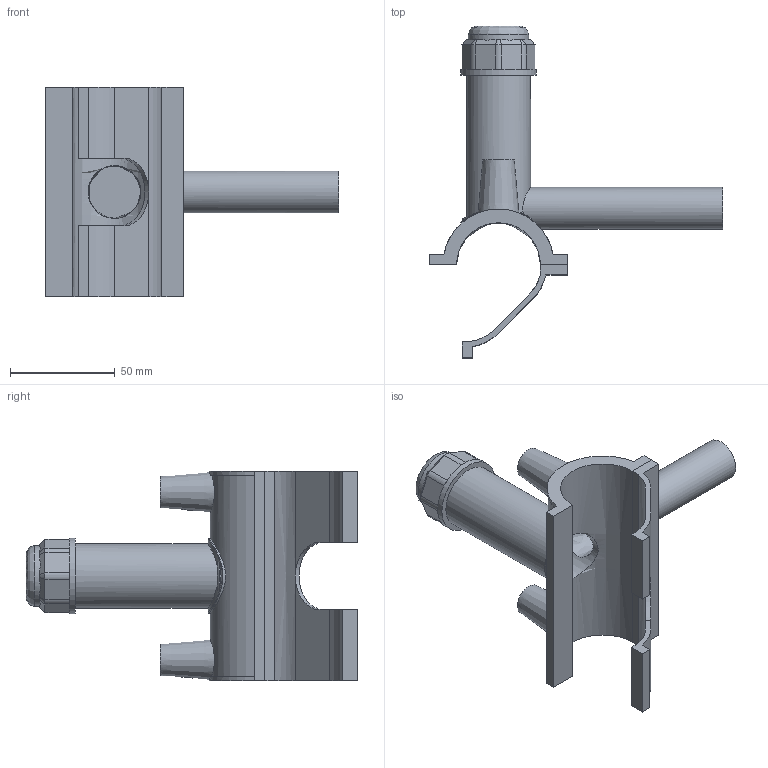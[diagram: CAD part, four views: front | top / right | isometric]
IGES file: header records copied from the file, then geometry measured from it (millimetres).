
Global section: file name: 496304040020.ipt; native system: Autodesk Inventor 2015; preprocessor: unknown; author: KIM; date: 20190124.130547; units: millimetre
Bounding box: 140 x 158.4 x 100 mm (x, y, z)
Volume: 121023.6 mm3; surface area: 61486.8 mm2
Topology: 2 solids, 2 shells, 111 faces, 286 edges, 187 vertices
Faces by surface type: plane 66, cylinder 23, cone 11, revolution 10, bspline 1
Full cylindrical faces by diameter (mm): 4 x2, 20 x1, 28.8 x1, 30.6 x1, 36 x1
